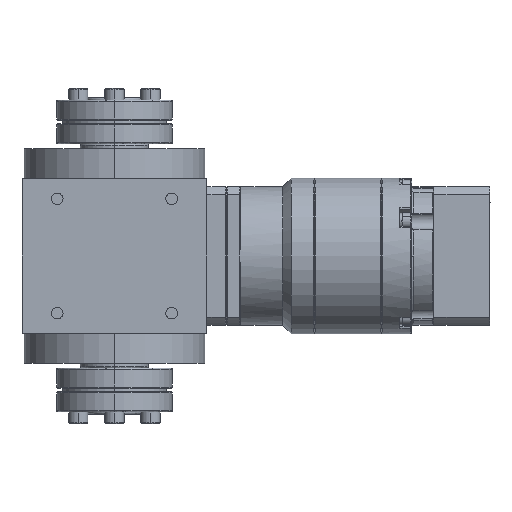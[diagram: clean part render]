
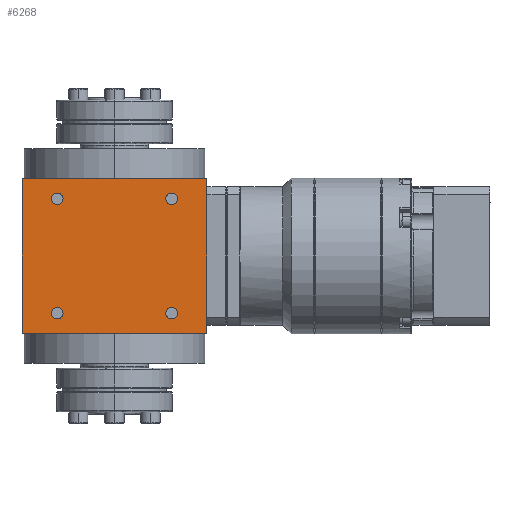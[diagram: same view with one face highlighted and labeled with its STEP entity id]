
A CAD part, left-side view. The second image highlights one B-rep face of the part: STEP entity #6268.
In plain terms, the highlighted planar face has unit normal (-1, 0, 0).
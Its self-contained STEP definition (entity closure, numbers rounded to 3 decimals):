
#148 = DIRECTION ( 'NONE',  ( 0., -1., 0. ) ) ;
#536 = CARTESIAN_POINT ( 'NONE',  ( -40., 24.749, 24.749 ) ) ;
#812 = EDGE_CURVE ( 'NONE', #18159, #18930, #22991, .T. ) ;
#920 = CIRCLE ( 'NONE', #22511, 2.5 ) ;
#947 = VECTOR ( 'NONE', #1601, 1000. ) ;
#1187 = CARTESIAN_POINT ( 'NONE',  ( -40., -24.749, 24.749 ) ) ;
#1272 = CARTESIAN_POINT ( 'NONE',  ( -40., -40., -33.5 ) ) ;
#1596 = CARTESIAN_POINT ( 'NONE',  ( -40., 40., -33.5 ) ) ;
#1601 = DIRECTION ( 'NONE',  ( 0., 0., 1. ) ) ;
#1750 = EDGE_CURVE ( 'NONE', #19754, #9786, #23553, .T. ) ;
#1826 = DIRECTION ( 'NONE',  ( -1., 0., 0. ) ) ;
#2295 = EDGE_LOOP ( 'NONE', ( #28853, #5798 ) ) ;
#3203 = EDGE_LOOP ( 'NONE', ( #17313, #31591, #20162, #31936 ) ) ;
#3446 = DIRECTION ( 'NONE',  ( 1., 0., 0. ) ) ;
#3465 = CARTESIAN_POINT ( 'NONE',  ( -40., -40., -33.5 ) ) ;
#3520 = ORIENTED_EDGE ( 'NONE', *, *, #1750, .T. ) ;
#3753 = EDGE_CURVE ( 'NONE', #18930, #18159, #920, .T. ) ;
#4018 = ORIENTED_EDGE ( 'NONE', *, *, #10865, .T. ) ;
#4741 = DIRECTION ( 'NONE',  ( 0., -1., 0. ) ) ;
#4812 = CARTESIAN_POINT ( 'NONE',  ( -40., -40., 33.5 ) ) ;
#5072 = AXIS2_PLACEMENT_3D ( 'NONE', #24906, #1826, #32987 ) ;
#5140 = DIRECTION ( 'NONE',  ( 1., 0., 0. ) ) ;
#5798 = ORIENTED_EDGE ( 'NONE', *, *, #17835, .T. ) ;
#6156 = EDGE_CURVE ( 'NONE', #23041, #12843, #26987, .T. ) ;
#6268 = ADVANCED_FACE ( 'NONE', ( #10656, #7101, #33354, #21709, #10833 ), #15905, .T. ) ;
#7013 = EDGE_CURVE ( 'NONE', #14308, #23041, #26901, .T. ) ;
#7101 = FACE_BOUND ( 'NONE', #13251, .T. ) ;
#7540 = CARTESIAN_POINT ( 'NONE',  ( -40., -22.249, -24.749 ) ) ;
#8296 = VERTEX_POINT ( 'NONE', #31007 ) ;
#8299 = AXIS2_PLACEMENT_3D ( 'NONE', #30471, #19578, #11491 ) ;
#8570 = AXIS2_PLACEMENT_3D ( 'NONE', #536, #31869, #148 ) ;
#8718 = CIRCLE ( 'NONE', #16493, 2.5 ) ;
#9252 = CARTESIAN_POINT ( 'NONE',  ( -40., 40., 33.5 ) ) ;
#9786 = VERTEX_POINT ( 'NONE', #31151 ) ;
#9824 = EDGE_LOOP ( 'NONE', ( #3520, #20243 ) ) ;
#9987 = EDGE_CURVE ( 'NONE', #27211, #8296, #31187, .T. ) ;
#10216 = CARTESIAN_POINT ( 'NONE',  ( -40., 24.749, 24.749 ) ) ;
#10656 = FACE_OUTER_BOUND ( 'NONE', #3203, .T. ) ;
#10833 = FACE_BOUND ( 'NONE', #9824, .T. ) ;
#10865 = EDGE_CURVE ( 'NONE', #8296, #27211, #19843, .T. ) ;
#10961 = DIRECTION ( 'NONE',  ( 1., 0., 0. ) ) ;
#11470 = AXIS2_PLACEMENT_3D ( 'NONE', #36810, #30972, #18647 ) ;
#11491 = DIRECTION ( 'NONE',  ( 0., -1., 0. ) ) ;
#11707 = CARTESIAN_POINT ( 'NONE',  ( -40., -24.749, -24.749 ) ) ;
#11894 = CIRCLE ( 'NONE', #8299, 2.5 ) ;
#12068 = DIRECTION ( 'NONE',  ( 0., -1., 0. ) ) ;
#12843 = VERTEX_POINT ( 'NONE', #4812 ) ;
#13251 = EDGE_LOOP ( 'NONE', ( #4018, #18466 ) ) ;
#13319 = LINE ( 'NONE', #30414, #23068 ) ;
#13455 = VERTEX_POINT ( 'NONE', #9252 ) ;
#13464 = AXIS2_PLACEMENT_3D ( 'NONE', #1187, #32719, #29168 ) ;
#13647 = VECTOR ( 'NONE', #4741, 1000. ) ;
#14308 = VERTEX_POINT ( 'NONE', #1596 ) ;
#15905 = PLANE ( 'NONE',  #5072 ) ;
#16402 = CARTESIAN_POINT ( 'NONE',  ( -40., -27.249, 24.749 ) ) ;
#16493 = AXIS2_PLACEMENT_3D ( 'NONE', #10216, #5140, #27831 ) ;
#17313 = ORIENTED_EDGE ( 'NONE', *, *, #24312, .F. ) ;
#17615 = DIRECTION ( 'NONE',  ( 0., 0., 1. ) ) ;
#17835 = EDGE_CURVE ( 'NONE', #35968, #21719, #11894, .T. ) ;
#18159 = VERTEX_POINT ( 'NONE', #7540 ) ;
#18260 = CARTESIAN_POINT ( 'NONE',  ( -40., 0., -33.5 ) ) ;
#18466 = ORIENTED_EDGE ( 'NONE', *, *, #9987, .T. ) ;
#18647 = DIRECTION ( 'NONE',  ( 0., -1., 0. ) ) ;
#18852 = CARTESIAN_POINT ( 'NONE',  ( -40., 40., -33.5 ) ) ;
#18930 = VERTEX_POINT ( 'NONE', #21339 ) ;
#19518 = VECTOR ( 'NONE', #17615, 1000. ) ;
#19578 = DIRECTION ( 'NONE',  ( 1., 0., 0. ) ) ;
#19754 = VERTEX_POINT ( 'NONE', #35672 ) ;
#19843 = CIRCLE ( 'NONE', #11470, 2.5 ) ;
#20162 = ORIENTED_EDGE ( 'NONE', *, *, #6156, .T. ) ;
#20243 = ORIENTED_EDGE ( 'NONE', *, *, #28099, .T. ) ;
#21339 = CARTESIAN_POINT ( 'NONE',  ( -40., -27.249, -24.749 ) ) ;
#21709 = FACE_BOUND ( 'NONE', #2295, .T. ) ;
#21719 = VERTEX_POINT ( 'NONE', #16402 ) ;
#21727 = DIRECTION ( 'NONE',  ( 0., -1., 0. ) ) ;
#22330 = DIRECTION ( 'NONE',  ( 0., -1., 0. ) ) ;
#22511 = AXIS2_PLACEMENT_3D ( 'NONE', #11707, #3446, #12068 ) ;
#22599 = DIRECTION ( 'NONE',  ( 0., -1., 0. ) ) ;
#22755 = CARTESIAN_POINT ( 'NONE',  ( -40., 27.249, -24.749 ) ) ;
#22991 = CIRCLE ( 'NONE', #30777, 2.5 ) ;
#23041 = VERTEX_POINT ( 'NONE', #3465 ) ;
#23068 = VECTOR ( 'NONE', #22330, 1000. ) ;
#23553 = CIRCLE ( 'NONE', #8570, 2.5 ) ;
#23680 = EDGE_CURVE ( 'NONE', #13455, #12843, #13319, .T. ) ;
#24312 = EDGE_CURVE ( 'NONE', #14308, #13455, #24653, .T. ) ;
#24653 = LINE ( 'NONE', #18852, #947 ) ;
#24886 = CIRCLE ( 'NONE', #13464, 2.5 ) ;
#24906 = CARTESIAN_POINT ( 'NONE',  ( -40., 40., -33.5 ) ) ;
#24908 = CARTESIAN_POINT ( 'NONE',  ( -40., -22.249, 24.749 ) ) ;
#25109 = CARTESIAN_POINT ( 'NONE',  ( -40., 24.749, -24.749 ) ) ;
#25397 = CARTESIAN_POINT ( 'NONE',  ( -40., -24.749, -24.749 ) ) ;
#25880 = ORIENTED_EDGE ( 'NONE', *, *, #3753, .T. ) ;
#26264 = EDGE_LOOP ( 'NONE', ( #25880, #36164 ) ) ;
#26901 = LINE ( 'NONE', #18260, #13647 ) ;
#26987 = LINE ( 'NONE', #1272, #19518 ) ;
#27211 = VERTEX_POINT ( 'NONE', #22755 ) ;
#27375 = DIRECTION ( 'NONE',  ( 1., 0., 0. ) ) ;
#27831 = DIRECTION ( 'NONE',  ( 0., -1., 0. ) ) ;
#28099 = EDGE_CURVE ( 'NONE', #9786, #19754, #8718, .T. ) ;
#28853 = ORIENTED_EDGE ( 'NONE', *, *, #35105, .T. ) ;
#29168 = DIRECTION ( 'NONE',  ( 0., -1., 0. ) ) ;
#30414 = CARTESIAN_POINT ( 'NONE',  ( -40., 0., 33.5 ) ) ;
#30471 = CARTESIAN_POINT ( 'NONE',  ( -40., -24.749, 24.749 ) ) ;
#30777 = AXIS2_PLACEMENT_3D ( 'NONE', #25397, #10961, #22599 ) ;
#30972 = DIRECTION ( 'NONE',  ( 1., 0., 0. ) ) ;
#31007 = CARTESIAN_POINT ( 'NONE',  ( -40., 22.249, -24.749 ) ) ;
#31151 = CARTESIAN_POINT ( 'NONE',  ( -40., 27.249, 24.749 ) ) ;
#31187 = CIRCLE ( 'NONE', #32990, 2.5 ) ;
#31591 = ORIENTED_EDGE ( 'NONE', *, *, #7013, .T. ) ;
#31869 = DIRECTION ( 'NONE',  ( 1., 0., 0. ) ) ;
#31936 = ORIENTED_EDGE ( 'NONE', *, *, #23680, .F. ) ;
#32719 = DIRECTION ( 'NONE',  ( 1., 0., 0. ) ) ;
#32987 = DIRECTION ( 'NONE',  ( 0., 0., 1. ) ) ;
#32990 = AXIS2_PLACEMENT_3D ( 'NONE', #25109, #27375, #21727 ) ;
#33354 = FACE_BOUND ( 'NONE', #26264, .T. ) ;
#35105 = EDGE_CURVE ( 'NONE', #21719, #35968, #24886, .T. ) ;
#35672 = CARTESIAN_POINT ( 'NONE',  ( -40., 22.249, 24.749 ) ) ;
#35968 = VERTEX_POINT ( 'NONE', #24908 ) ;
#36164 = ORIENTED_EDGE ( 'NONE', *, *, #812, .T. ) ;
#36810 = CARTESIAN_POINT ( 'NONE',  ( -40., 24.749, -24.749 ) ) ;
